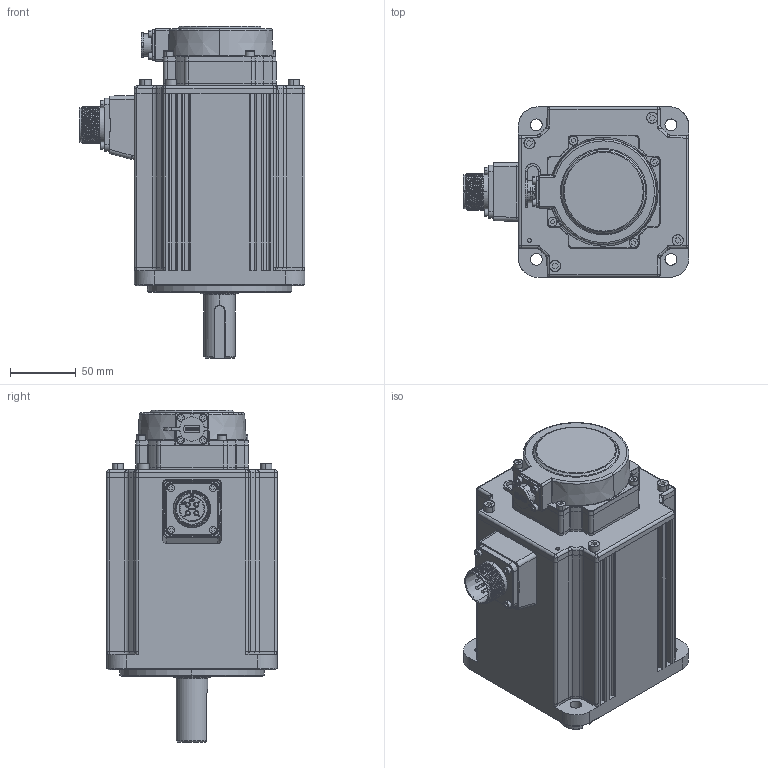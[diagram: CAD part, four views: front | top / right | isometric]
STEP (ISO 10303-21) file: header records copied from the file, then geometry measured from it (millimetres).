
FILE_DESCRIPTION (( 'STEP AP203' ), '1' );
FILE_NAME ('MS6G-130TH15B2-42P3.STEP', '2024-06-18T07:25:32', ( '' ), ( '' ), 'SwSTEP 2.0', 'SolidWorks 2022', '' );
FILE_SCHEMA (( 'CONFIG_CONTROL_DESIGN' ));
Length unit declared in the file: millimetre
Products named in the file (1): MS6G-130TH15B2-42P3
Bounding box: 172.1 x 130 x 253 mm (x, y, z)
Volume: 2646914.3 mm3; surface area: 237942.2 mm2
Topology: 26 solids, 26 shells, 2803 faces, 7552 edges, 4918 vertices
Faces by surface type: plane 1412, cylinder 660, bspline 432, cone 145, torus 134, sphere 20
Entity records: 104622 total; most frequent: CARTESIAN_POINT 39664, ORIENTED_EDGE 14952, DIRECTION 11103, EDGE_CURVE 7476, VERTEX_POINT 4908, LINE 3761, VECTOR 3761, AXIS2_PLACEMENT_3D 3671
